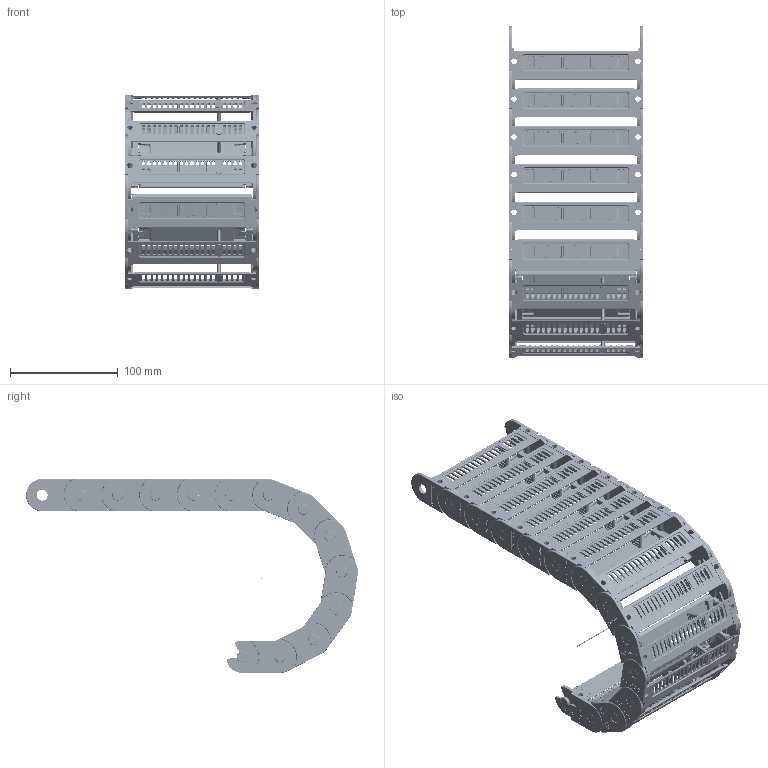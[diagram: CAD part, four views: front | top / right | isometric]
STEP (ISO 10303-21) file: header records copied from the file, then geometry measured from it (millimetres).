
FILE_DESCRIPTION((''),'2;1');
FILE_NAME('C:\Uebbing\PARAMETERKETTEN\KOLIBRI\Kol_30_125_0\Kol 30_125_0_R75.stp','2012-03-05T12:26:15',('Uebbing'),(''),'Autodesk Inventor 10','Autodesk Inventor 10','');
FILE_SCHEMA(('AUTOMOTIVE_DESIGN { 1 0 10303 214 1 1 1 1 }'));
Length unit declared in the file: millimetre
Products named in the file (6): KOLIBRI 30_125_0_PARAMETRISCH; Achse; Kol_30_125_0; PZ 30 Stecksteg; Kol_30_125_0_Klappsteg; Kol 30_125_0 Lasche
Assembly tree (17 placements, depth 3):
  KOLIBRI 30_125_0_PARAMETRISCH
    Achse
    Kol_30_125_0  x13
      PZ 30 Stecksteg
      Kol_30_125_0_Klappsteg
      Kol 30_125_0 Lasche
Bounding box: 125 x 307.93 x 180 mm (x, y, z)
Volume: 306703.8 mm3; surface area: 295872.2 mm2
Topology: 40 solids, 40 shells, 16058 faces, 43658 edges, 27979 vertices
Faces by surface type: plane 7984, cylinder 3992, bspline 1833, torus 1703, cone 468, sphere 78
Full cylindrical faces by diameter (mm): 1 x1, 1.166 x13, 2.048 x13, 2.8 x104, 5.1 x26, 10 x26, 10.1 x26
Entity records: 43076 total; most frequent: CARTESIAN_POINT 12069, ORIENTED_EDGE 6636, DIRECTION 6198, EDGE_CURVE 3318, VERTEX_POINT 2140, AXIS2_PLACEMENT_3D 2110, VECTOR 1978, LINE 1978
